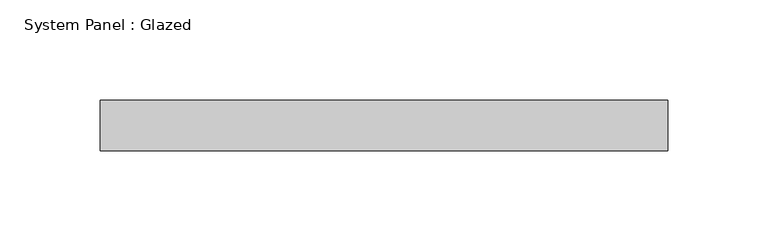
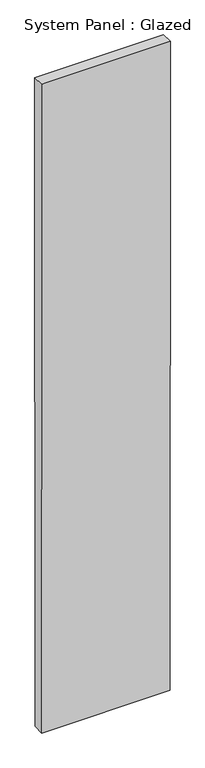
"""IFC4 building model written with IfcOpenShell, lengths in millimetres: plate geometry, System Panel : Glazed."""

import ifcopenshell
import ifcopenshell.guid

model = None  # the IFC model being written
_history = None  # IfcOwnerHistory: only IFC2X3 demands one
_inside = {}  # id of a spatial element -> (the spatial element, [elements in it])
_under = {}  # id of a project, library or spatial element -> (it, [spatial elements below it])
_declared = {}  # id of a project -> (the project, [libraries it declares])
_typed = {}  # id of a type object -> (the type object, [elements of that type])
_made_of = {}  # id of a material, layer set ... -> (it, [elements and type objects made of it])


def new_model(schema):
    """Start an empty IFC model of exactly this schema.

    Asked for "IFC4X3", IfcOpenShell would pick the latest addendum, in which some entities
    have other attributes; the version numbers below select the first issue.
    IFC2X3 requires an IfcOwnerHistory on every rooted entity: one is made here for all.
    """
    global model, _history
    if schema == "IFC4X3":
        model = ifcopenshell.file(schema_version=(4, 3, 0, 0))
    else:
        model = ifcopenshell.file(schema=schema)
    _inside.clear()
    _under.clear()
    _declared.clear()
    _typed.clear()
    _made_of.clear()
    _history = None
    if model.schema == "IFC2X3":
        org = make("IfcOrganization", Name="unknown")
        user = make(
            "IfcPersonAndOrganization",
            ThePerson=make("IfcPerson", FamilyName="unknown"),
            TheOrganization=org,
        )
        app = make(
            "IfcApplication",
            ApplicationDeveloper=org,
            Version="unknown",
            ApplicationFullName="unknown",
            ApplicationIdentifier="unknown",
        )
        _history = make(
            "IfcOwnerHistory",
            OwningUser=user,
            OwningApplication=app,
            ChangeAction="ADDED",
            CreationDate=0,
        )
    return model


def make(cls, **values):
    """One entity of the class cls with the attributes given. An attribute that is None is left unset."""
    return model.create_entity(
        cls, **{name: value for name, value in values.items() if value is not None}
    )


def rooted(cls, **values):
    """An entity with a GlobalId (a new one), such as an element, a storey or a relation."""
    return make(cls, GlobalId=ifcopenshell.guid.new(), OwnerHistory=_history, **values)


def si_unit(unit_type, name, prefix=None):
    """IfcSIUnit, for example si_unit("LENGTHUNIT", "METRE", prefix="MILLI")."""
    return make("IfcSIUnit", UnitType=unit_type, Prefix=prefix, Name=name)


def assignment(units):
    """IfcUnitAssignment: the units of a project."""
    return None if units is None else make("IfcUnitAssignment", Units=units)


def point(xyz):
    """IfcCartesianPoint."""
    return None if xyz is None else make("IfcCartesianPoint", Coordinates=xyz)


def direction(xyz):
    """IfcDirection."""
    return None if xyz is None else make("IfcDirection", DirectionRatios=xyz)


def frame(location, z_axis=None, x_axis=None):
    """IfcAxis2Placement3D, a coordinate frame: its origin and axes. An axis left out is left unset."""
    return make(
        "IfcAxis2Placement3D",
        Location=point(location),
        Axis=direction(z_axis),
        RefDirection=direction(x_axis),
    )


def origin():
    """The frame at (0, 0, 0) with its axes left unset."""
    return frame((0.0, 0.0, 0.0))


def place(relative_to, where):
    """IfcLocalPlacement: puts the frame where relative to a parent placement (None: the world)."""
    return make(
        "IfcLocalPlacement", PlacementRelTo=relative_to, RelativePlacement=where
    )


def context(
    kind, dimensions, precision=None, world=None, true_north=None, identifier=None
):
    """IfcGeometricRepresentationContext, for example the 3D "Model" context."""
    return make(
        "IfcGeometricRepresentationContext",
        ContextIdentifier=identifier,
        ContextType=kind,
        CoordinateSpaceDimension=dimensions,
        Precision=precision,
        WorldCoordinateSystem=world,
        TrueNorth=true_north,
    )


def project(units=None, contexts=None):
    """IfcProject with its units and contexts."""
    return rooted(
        "IfcProject",
        Name="project",
        RepresentationContexts=contexts,
        UnitsInContext=assignment(units),
    )


def spatial(cls, under=None, at=None, **own):
    """A site, building, storey or space (cls), placed at a placement, below another one or the project."""
    s = rooted(cls, ObjectPlacement=at, **own)
    if under is not None:
        _under.setdefault(under.id(), (under, []))[1].append(s)
    return s


def polyline(points):
    """IfcPolyline through the points."""
    return make("IfcPolyline", Points=[point(p) for p in points])


def outline(outer, holes=None, kind="AREA"):
    """IfcArbitraryClosedProfileDef: a profile drawn as a closed curve; with holes, ...WithVoids."""
    if holes is None:
        return make("IfcArbitraryClosedProfileDef", ProfileType=kind, OuterCurve=outer)
    return make(
        "IfcArbitraryProfileDefWithVoids",
        ProfileType=kind,
        OuterCurve=outer,
        InnerCurves=holes,
    )


def extrude(swept, where, along, depth):
    """IfcExtrudedAreaSolid: the profile swept, set in the frame where, extruded along a direction by depth."""
    return make(
        "IfcExtrudedAreaSolid",
        SweptArea=swept,
        Position=where,
        ExtrudedDirection=direction(along),
        Depth=depth,
    )


def shape(context_of_items, identifier, shape_type, items):
    """IfcShapeRepresentation: the items that make up one representation, for example the "Body"."""
    return make(
        "IfcShapeRepresentation",
        ContextOfItems=context_of_items,
        RepresentationIdentifier=identifier,
        RepresentationType=shape_type,
        Items=items,
    )


def source(mapping_origin, context_of_items, identifier, shape_type, items):
    """IfcRepresentationMap: a shape defined once, which mapped items show again and again."""
    return make(
        "IfcRepresentationMap",
        MappingOrigin=mapping_origin,
        MappedRepresentation=shape(context_of_items, identifier, shape_type, items),
    )


def transform(
    local_origin,
    x_axis=None,
    y_axis=None,
    z_axis=None,
    scale=None,
    scale2=None,
    scale3=None,
    uniform=True,
):
    """IfcCartesianTransformationOperator3D, or its non-uniform kind. x_axis, y_axis, z_axis: its Axis1, 2, 3."""
    if uniform:
        return make(
            "IfcCartesianTransformationOperator3D",
            Axis1=direction(x_axis),
            Axis2=direction(y_axis),
            LocalOrigin=point(local_origin),
            Scale=scale,
            Axis3=direction(z_axis),
        )
    return make(
        "IfcCartesianTransformationOperator3DnonUniform",
        Axis1=direction(x_axis),
        Axis2=direction(y_axis),
        LocalOrigin=point(local_origin),
        Scale=scale,
        Axis3=direction(z_axis),
        Scale2=scale2,
        Scale3=scale3,
    )


def mapped(mapping_source, mapping_target):
    """IfcMappedItem: shows the shape of a source again, moved by a transform."""
    return make(
        "IfcMappedItem", MappingSource=mapping_source, MappingTarget=mapping_target
    )


def made_of(thing, what):
    """Note that an element or type object is made of a material, layer set ...; save() writes the relation."""
    if what is not None:
        _made_of.setdefault(what.id(), (what, []))[1].append(thing)
    return thing


def element(
    cls,
    number,
    at=None,
    inside=None,
    cuts=None,
    type_object=None,
    material=None,
    context=None,
    identifier="Body",
    shape_type=None,
    held_by="IfcProductDefinitionShape",
    body=None,
    shapes=None,
    **own,
):
    """One element of the class cls, such as IfcWall. Its Tag is "e" and its number.

    at: its placement. inside: the storey or other place that contains it. cuts: it is an
    opening in that element (IfcRelVoidsElement). A single representation is given by context,
    identifier, shape_type and body (its items); several are given by shapes. held_by: the class
    of the entity that holds the representations. save() writes the other relations.
    """
    e = rooted(cls, Tag="e%d" % number, ObjectPlacement=at, **own)
    if body is not None:
        shapes = [shape(context, identifier, shape_type, body)]
    if shapes is not None:
        e.Representation = make(held_by, Representations=shapes)
    if inside is not None:
        _inside.setdefault(inside.id(), (inside, []))[1].append(e)
    if cuts is not None:
        rooted(
            "IfcRelVoidsElement", RelatingBuildingElement=cuts, RelatedOpeningElement=e
        )
    if type_object is not None:
        _typed.setdefault(type_object.id(), (type_object, []))[1].append(e)
    return made_of(e, material)


def aggregate(whole, parts):
    """IfcRelAggregates: a whole, such as a stair, and the parts it consists of."""
    return rooted("IfcRelAggregates", RelatingObject=whole, RelatedObjects=parts)


def save(model, path):
    """Write the relations noted so far, then the file.

    IfcRelAggregates (storeys below a building ...), IfcRelContainedInSpatialStructure (elements
    in a storey), IfcRelDefinesByType, IfcRelAssociatesMaterial and IfcRelDeclares: one each for
    every whole, place, type object, material and project.
    """
    for whole, parts in _under.values():
        aggregate(whole, parts)
    for where, things in _inside.values():
        rooted(
            "IfcRelContainedInSpatialStructure",
            RelatedElements=things,
            RelatingStructure=where,
        )
    for kind, things in _typed.values():
        rooted("IfcRelDefinesByType", RelatedObjects=things, RelatingType=kind)
    for what, things in _made_of.values():
        rooted("IfcRelAssociatesMaterial", RelatedObjects=things, RelatingMaterial=what)
    for by, libraries in _declared.values():
        rooted("IfcRelDeclares", RelatingContext=by, RelatedDefinitions=libraries)
    model.write(path)


def system_panel_glazed_2e7a3a65(model_context):
    return source(origin(), model_context, "Body", "SweptSolid", [
        extrude(outline(polyline([(0.0, -140.5649289), (0.0, 140.5649244), (1499.9999129, 141.0761737), (1499.9999129, -141.0761737), (0.0, -140.5649289)])), frame((0.0, -49.5, 0.0), z_axis=(0.0, 1.0, 0.0), x_axis=(0.0, 0.0, 1.0)), (0.0, 0.0, 1.0), 25.0),
    ])


if __name__ == "__main__":
    model = new_model("IFC4")
    model_context = context("Model", 3, world=origin())
    ifc_project = project(units=[si_unit("LENGTHUNIT", "METRE", prefix="MILLI")], contexts=[model_context])
    site = spatial("IfcSite", under=ifc_project)
    building = spatial("IfcBuilding", under=site)
    placement = place(None, origin())
    system_panel_glazed_shape = system_panel_glazed_2e7a3a65(model_context)
    element("IfcPlate", 1, ObjectType="System Panel : Glazed", at=placement, inside=building, context=model_context, shape_type="MappedRepresentation", body=[
        mapped(system_panel_glazed_shape, transform((0.0, 0.0, 0.0), x_axis=(1.0, 0.0, 0.0), y_axis=(0.0, 1.0, 0.0), z_axis=(0.0, 0.0, 1.0))),
    ])
    save(model, "model.ifc")
